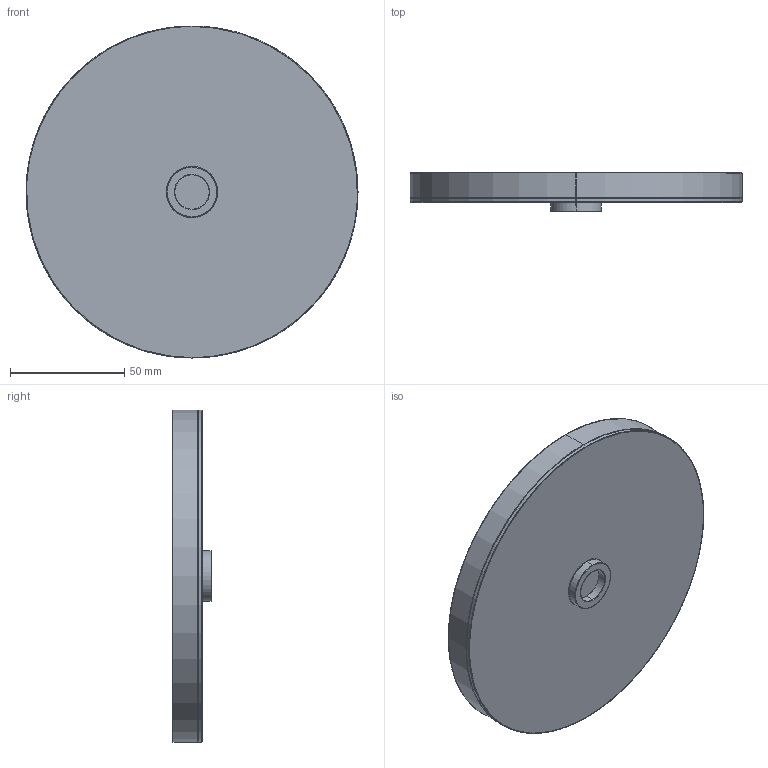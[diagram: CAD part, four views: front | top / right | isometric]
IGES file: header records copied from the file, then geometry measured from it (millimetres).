
Start section: SolidWorks IGES file using analytic representation for surfaces
Global section: file name: C:\Users\danielet\Desktop\ISMAIL\CHAMALEON\DISCOS CHAMALEON\CHAMALEON-K0003240-3D\CHAMALEON-K0003240-3D.IGS; native system: SolidWorks 2018; preprocessor: SolidWorks 2018; author: danielet; date: 230321.101435; units: millimetre
Bounding box: 145 x 17 x 145 mm (x, y, z)
Surface area: 72305.6 mm2 (no closed solid volume)
Topology: 0 solids, 0 shells, 26 faces, 464 edges, 464 vertices
Faces by surface type: bspline 18, revolution 8
